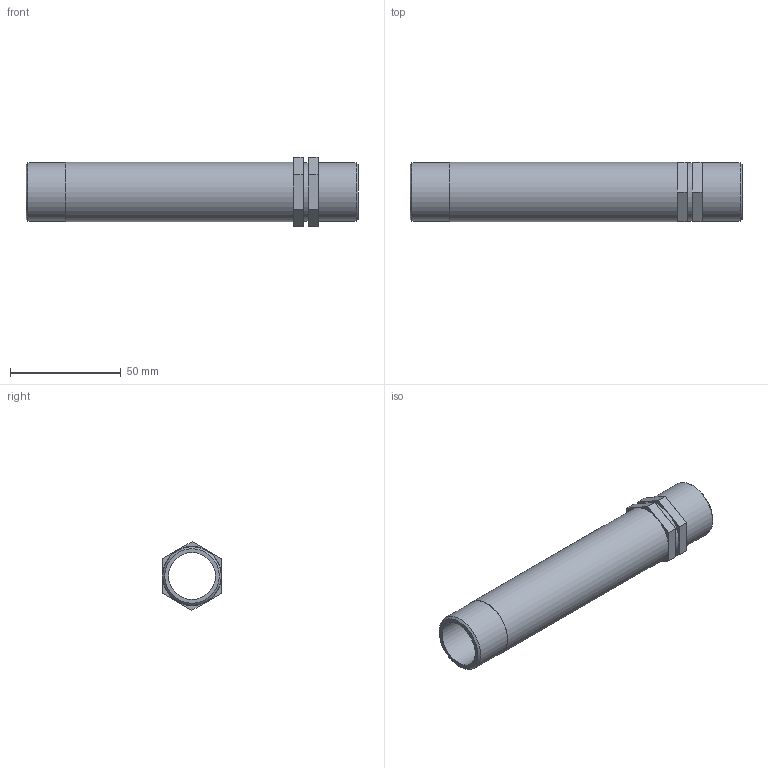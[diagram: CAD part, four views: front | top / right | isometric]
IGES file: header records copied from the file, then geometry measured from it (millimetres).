
Global section: file name: 051607007005_0516070070050A.ipt; native system: Autodesk Inventor 2015; preprocessor: unknown; author: KIM; date: 20170618.093321; units: millimetre
Bounding box: 150 x 27.05 x 31.18 mm (x, y, z)
Volume: 31685 mm3; surface area: 23259.1 mm2
Topology: 1 solids, 1 shells, 26 faces, 57 edges, 38 vertices
Faces by surface type: plane 19, cylinder 4, cone 2, revolution 1
Full cylindrical faces by diameter (mm): 26.441 x3, 26.758 x1
